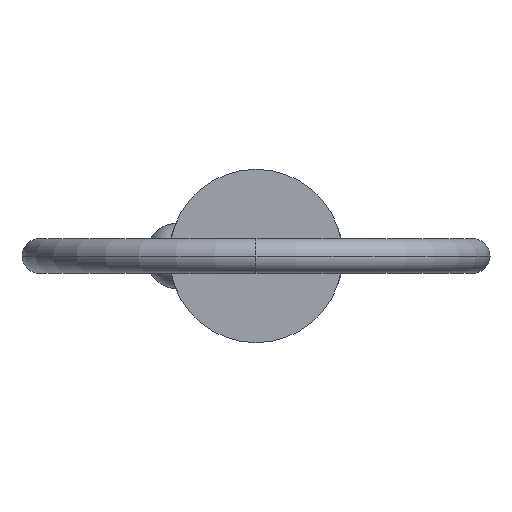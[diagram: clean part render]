
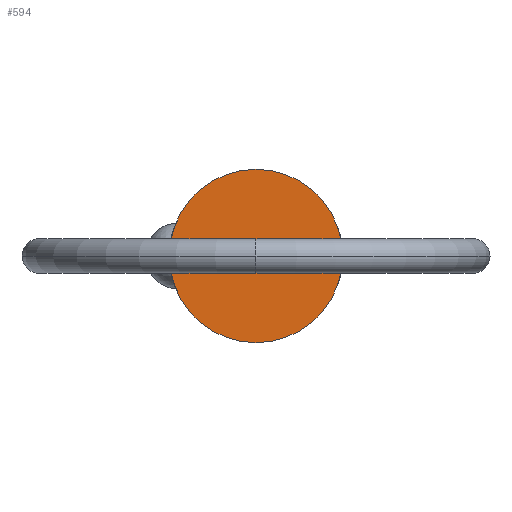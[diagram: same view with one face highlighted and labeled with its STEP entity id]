
A CAD part, left-side view. The second image highlights one B-rep face of the part: STEP entity #594.
In plain terms, the highlighted planar face has unit normal (-1, 0, 0).
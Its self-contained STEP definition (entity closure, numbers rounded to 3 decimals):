
#5 = ORIENTED_EDGE ( 'NONE', *, *, #712, .F. ) ;
#69 = ORIENTED_EDGE ( 'NONE', *, *, #226, .F. ) ;
#87 = DIRECTION ( 'NONE',  ( 1., 0., 0. ) ) ;
#93 = AXIS2_PLACEMENT_3D ( 'NONE', #107, #791, #404 ) ;
#107 = CARTESIAN_POINT ( 'NONE',  ( 0., 0., 0. ) ) ;
#111 = DIRECTION ( 'NONE',  ( 0., 0., -1. ) ) ;
#151 = CARTESIAN_POINT ( 'NONE',  ( 0., 0., 0. ) ) ;
#152 = CARTESIAN_POINT ( 'NONE',  ( 0., 0., 0. ) ) ;
#168 = CIRCLE ( 'NONE', #876, 6.35 ) ;
#173 = CARTESIAN_POINT ( 'NONE',  ( 0., 0., -6.35 ) ) ;
#185 = FACE_OUTER_BOUND ( 'NONE', #271, .T. ) ;
#226 = EDGE_CURVE ( 'NONE', #428, #724, #168, .T. ) ;
#271 = EDGE_LOOP ( 'NONE', ( #69, #5 ) ) ;
#404 = DIRECTION ( 'NONE',  ( 0., 0., 1. ) ) ;
#428 = VERTEX_POINT ( 'NONE', #173 ) ;
#435 = DIRECTION ( 'NONE',  ( 1., 0., 0. ) ) ;
#461 = PLANE ( 'NONE',  #93 ) ;
#477 = CARTESIAN_POINT ( 'NONE',  ( 0., 0., 6.35 ) ) ;
#561 = DIRECTION ( 'NONE',  ( 0., 0., -1. ) ) ;
#584 = AXIS2_PLACEMENT_3D ( 'NONE', #152, #87, #111 ) ;
#594 = ADVANCED_FACE ( 'NONE', ( #185 ), #461, .T. ) ;
#712 = EDGE_CURVE ( 'NONE', #724, #428, #748, .T. ) ;
#724 = VERTEX_POINT ( 'NONE', #477 ) ;
#748 = CIRCLE ( 'NONE', #584, 6.35 ) ;
#791 = DIRECTION ( 'NONE',  ( -1., 0., 0. ) ) ;
#876 = AXIS2_PLACEMENT_3D ( 'NONE', #151, #435, #561 ) ;
